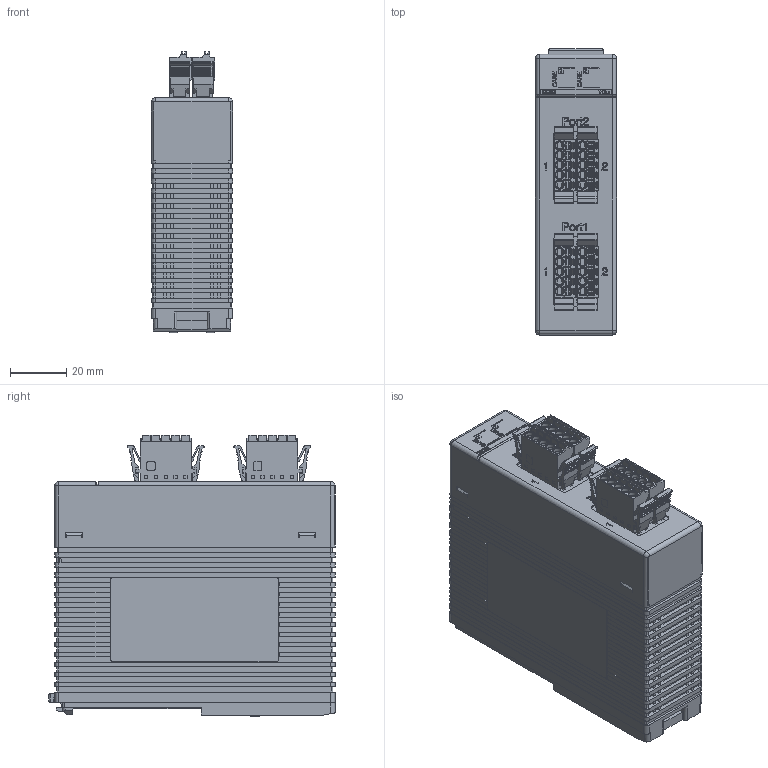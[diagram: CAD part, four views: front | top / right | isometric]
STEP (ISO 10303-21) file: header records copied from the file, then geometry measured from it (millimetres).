
FILE_DESCRIPTION (( 'STEP AP214' ), '1' );
FILE_NAME ('YCU-SQ61_250627.STEP', '2025-07-01T06:11:42', ( '' ), ( '' ), 'SwSTEP 2.0', 'SolidWorks 2022', '' );
FILE_SCHEMA (( 'AUTOMOTIVE_DESIGN' ));
Length unit declared in the file: millimetre
Products named in the file (1): YCU-SQ61_250627
Bounding box: 28.9 x 102 x 100.25 mm (x, y, z)
Volume: 233144.1 mm3; surface area: 48552.1 mm2
Topology: 1 solids, 52 shells, 6543 faces, 18228 edges, 11943 vertices
Faces by surface type: plane 4704, cylinder 1360, bspline 269, cone 164, torus 42, sphere 4
Entity records: 310753 total; most frequent: CARTESIAN_POINT 72564, ORIENTED_EDGE 36448, DIRECTION 31594, EDGE_CURVE 18224, LINE 14488, VECTOR 14488, VERTEX_POINT 11943, AXIS2_PLACEMENT_3D 8553
